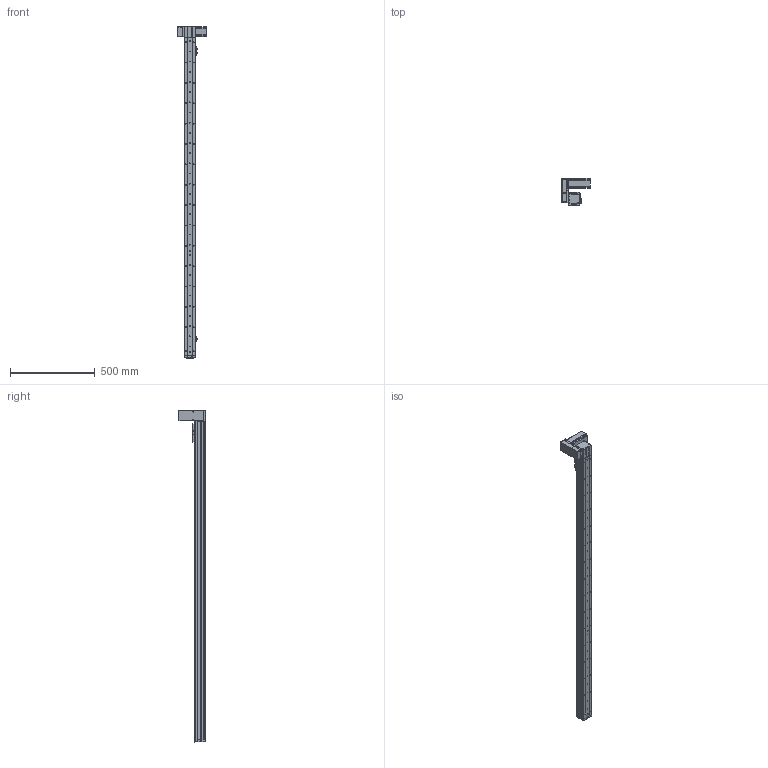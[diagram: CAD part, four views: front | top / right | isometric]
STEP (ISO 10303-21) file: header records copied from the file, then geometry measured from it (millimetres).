
FILE_DESCRIPTION (( 'STEP AP214' ), '1' );
FILE_NAME ('KSD68BS-S1700-MRU-CR.STEP', '2019-08-29T01:02:54', ( '微软用户' ), ( '微软中国' ), 'SwSTEP 2.0', 'SolidWorks 2014', '' );
FILE_SCHEMA (( 'AUTOMOTIVE_DESIGN' ));
Length unit declared in the file: millimetre
Products named in the file (14): 68遵裔啣揤啣1; 68宽单导轨全封闭丝杆传动安装板1防护罩; KSD68BS 1700行程盖板全封闭; KSD68BS 1700行程侧板全封闭; 68宽单导轨全封闭同步带端板; 68单导轨全封闭同步带电机座右; 68单导轨全封闭同步带安装板; 悵誘欶奻狟殏; 68宽马达安装板连板上折同步带; 感应片68宽全封闭; U倰嫖萇EEㄜSX672; 台达ECMA－C20604AS伺服电机（400W); KSD68BS 1700行程底板全封闭; KSD68BS-S1700-MRU-CR
Assembly tree (17 placements, depth 2):
  KSD68BS-S1700-MRU-CR
    KSD68BS 1700行程底板全封闭
    台达ECMA－C20604AS伺服电机（400W)
    U倰嫖萇EEㄜSX672  x3
    感应片68宽全封闭
    68宽马达安装板连板上折同步带
    悵誘欶奻狟殏
    68单导轨全封闭同步带安装板
    68单导轨全封闭同步带电机座右
    68宽单导轨全封闭同步带端板
    KSD68BS 1700行程侧板全封闭  x2
    68宽单导轨全封闭丝杆传动安装板1防护罩
    68遵裔啣揤啣1  x2
    KSD68BS 1700行程盖板全封闭
Bounding box: 167.2 x 159.5 x 1958.1 mm (x, y, z)
Volume: 3480405.6 mm3; surface area: 1416897 mm2
Topology: 18 solids, 18 shells, 1622 faces, 4679 edges, 2979 vertices
Faces by surface type: cylinder 799, plane 631, cone 192
Entity records: 53058 total; most frequent: CARTESIAN_POINT 9209, DIRECTION 7899, ORIENTED_EDGE 7554, EDGE_CURVE 3777, AXIS2_PLACEMENT_3D 2883, VERTEX_POINT 2477, VECTOR 2133, LINE 2133
